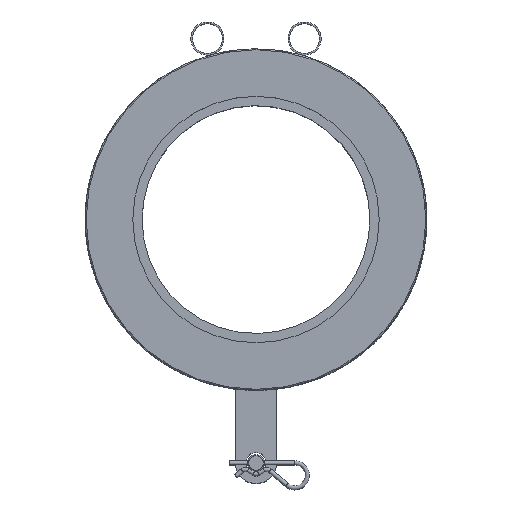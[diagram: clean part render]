
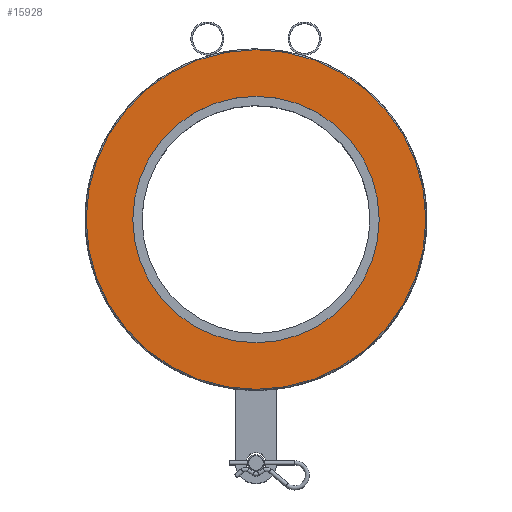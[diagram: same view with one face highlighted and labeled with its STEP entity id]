
A CAD part, top view. The second image highlights one B-rep face of the part: STEP entity #15928.
In plain terms, the highlighted planar face has unit normal (0, 0, 1).
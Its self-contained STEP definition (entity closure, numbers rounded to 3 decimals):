
#507=FACE_BOUND('',#3506,.T.);
#1701=PLANE('',#16805);
#2562=FACE_OUTER_BOUND('',#3505,.T.);
#3505=EDGE_LOOP('',(#14753));
#3506=EDGE_LOOP('',(#14754));
#6152=CIRCLE('',#16801,119.);
#6153=CIRCLE('',#16803,164.);
#7723=VERTEX_POINT('',#37962);
#7724=VERTEX_POINT('',#37966);
#10074=EDGE_CURVE('',#7723,#7723,#6152,.T.);
#10076=EDGE_CURVE('',#7724,#7724,#6153,.T.);
#14753=ORIENTED_EDGE('',*,*,#10076,.F.);
#14754=ORIENTED_EDGE('',*,*,#10074,.T.);
#15928=ADVANCED_FACE('',(#2562,#507),#1701,.T.);
#16801=AXIS2_PLACEMENT_3D('',#37963,#19587,#19588);
#16803=AXIS2_PLACEMENT_3D('',#37967,#19592,#19593);
#16805=AXIS2_PLACEMENT_3D('',#37970,#19597,#19598);
#19587=DIRECTION('center_axis',(0.,0.,
-1.));
#19588=DIRECTION('ref_axis',(-1.,0.,0.));
#19592=DIRECTION('center_axis',(0.,0.,
-1.));
#19593=DIRECTION('ref_axis',(-1.,0.,0.));
#19597=DIRECTION('center_axis',(0.,0.,
1.));
#19598=DIRECTION('ref_axis',(-1.,0.,0.));
#37962=CARTESIAN_POINT('',(119.,0.,112.));
#37963=CARTESIAN_POINT('Origin',(0.,0.,
112.));
#37966=CARTESIAN_POINT('',(164.,0.,112.));
#37967=CARTESIAN_POINT('Origin',(0.,0.,
112.));
#37970=CARTESIAN_POINT('Origin',(0.,0.,
112.));
